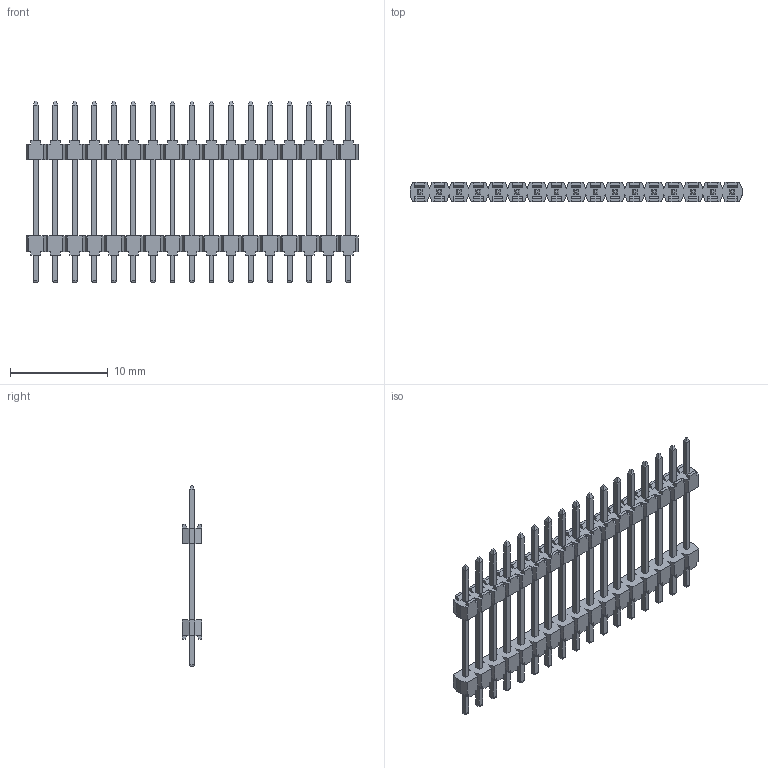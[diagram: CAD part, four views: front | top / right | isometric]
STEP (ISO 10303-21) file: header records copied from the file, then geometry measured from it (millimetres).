
FILE_DESCRIPTION(/* description */ (''),/* implementation_level */ '2;1');
FILE_NAME(/* name */ '951417-9012206-AR',/* time_stamp */ '2007-03-14T13:22:08+01:00',/* author */ (''),/* organization */ (''),/* preprocessor_version */ 'ST-DEVELOPER v9',/* originating_system */ 'UGS - NX 4.0',/* authorisation */ '');
FILE_SCHEMA (('AUTOMOTIVE_DESIGN { 1 0 10303 214 1 1 1 1 }'));
Length unit declared in the file: millimetre
Products named in the file (1): 951417-9012206-AR
Bounding box: 34 x 2 x 18.6 mm (x, y, z)
Volume: 274.5 mm3; surface area: 1147.2 mm2
Topology: 1 solids, 1 shells, 858 faces, 2324 edges, 1504 vertices
Faces by surface type: plane 790, cylinder 68
Entity records: 26376 total; most frequent: CARTESIAN_POINT 4687, ORIENTED_EDGE 4648, DIRECTION 4110, EDGE_CURVE 2324, LINE 2256, VECTOR 2256, VERTEX_POINT 1504, AXIS2_PLACEMENT_3D 927
